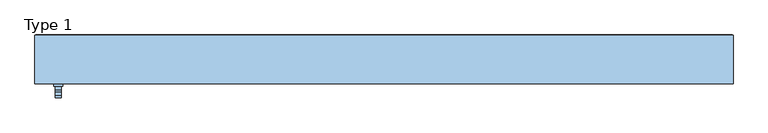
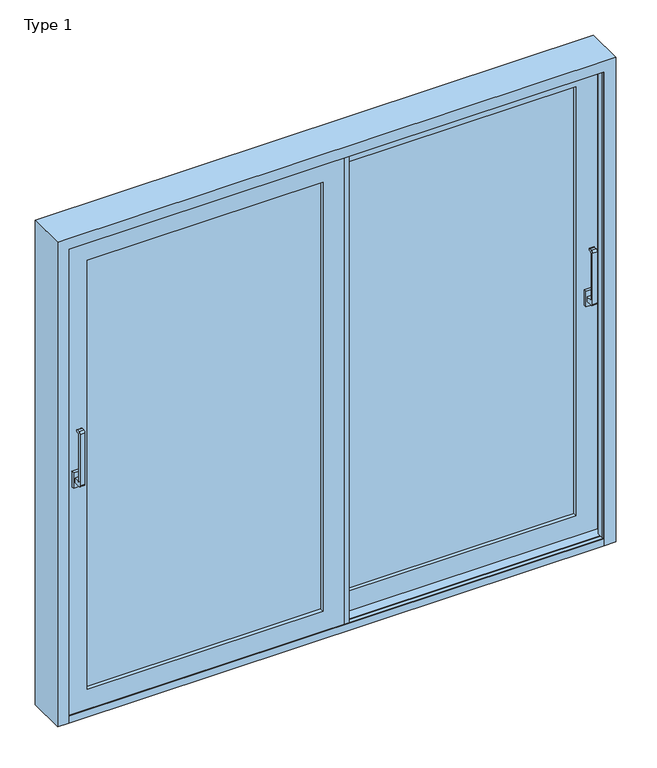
"""IFC4 building model written with IfcOpenShell, lengths in millimetres: window geometry, ETEM_E50_Double_Fly Screen_Lift_Sliding_FR : Type 1."""

from ifc_helpers import new_model, si_unit, point, frame, frame_2d, origin, place, context, project, spatial, polyline, circle_curve, ellipse_curve, trimmed, segment, composite_curve, outline, extrude, faceted_brep, source, transform, mapped, element, save
from ifc_brep_helpers import plane_surface, cylinder_surface, revolved_surface, advanced_brep


def type_1_54118faa(model_context):
    return source(origin(), model_context, "Body", "SolidModel", [
        extrude(outline(polyline([(1135.0, -5.6518056), (1105.0, -5.6518056), (1105.0, 7.3481944), (1135.0, 7.3481944), (1135.0, -5.6518056)])), frame((0.0, 0.0, 1065.0), z_axis=(0.0, 0.0, 1.0), x_axis=(1.0, 0.0, 0.0)), (0.0, 0.0, 1.0), 70.0),
        extrude(outline(composite_curve([segment(polyline([(-5.6518056, 1090.0), (-37.2254904, 1090.0)]), True, "CONTINUOUS"), segment(trimmed(circle_curve(frame_2d((-37.2254904, 1098.4263152)), 8.4263152), [point((-37.2254904, 1090.0))], [point((-45.6518056, 1098.4263152))], False, "CARTESIAN"), True, "CONTINUOUS"), segment(polyline([(-45.6518056, 1098.4263152), (-45.6518056, 1331.5736848)]), True, "CONTINUOUS"), segment(trimmed(circle_curve(frame_2d((-37.2254904, 1331.5736848)), 8.4263152), [point((-45.6518056, 1331.5736848))], [point((-37.2254904, 1340.0))], False, "CARTESIAN"), True, "CONTINUOUS"), segment(polyline([(-37.2254904, 1340.0), (-25.6518056, 1340.0)]), True, "CONTINUOUS"), segment(trimmed(circle_curve(frame_2d((-25.6518056, 1335.0)), 5.0), [point((-25.6518056, 1340.0))], [point((-25.6518056, 1330.0))], False, "CARTESIAN"), True, "CONTINUOUS"), segment(polyline([(-25.6518056, 1330.0), (-32.1162717, 1330.0)]), True, "CONTINUOUS"), segment(trimmed(circle_curve(frame_2d((-32.1162717, 1326.4644661)), 3.5355339), [point((-32.1162717, 1330.0))], [point((-35.6518056, 1326.4644661))], True, "CARTESIAN"), True, "CONTINUOUS"), segment(polyline([(-35.6518056, 1326.4644661), (-35.6518056, 1113.5355339)]), True, "CONTINUOUS"), segment(trimmed(circle_curve(frame_2d((-32.1162717, 1113.5355339)), 3.5355339), [point((-35.6518056, 1113.5355339))], [point((-32.1162717, 1110.0))], True, "CARTESIAN"), True, "CONTINUOUS"), segment(polyline([(-32.1162717, 1110.0), (-5.6518056, 1110.0), (-5.6518056, 1090.0)]), True, "CONTINUOUS")], self_intersect=False)), frame((1110.0, 0.0, 0.0), z_axis=(1.0, 0.0, 0.0), x_axis=(0.0, 1.0, 0.0)), (0.0, 0.0, 1.0), 20.0),
        extrude(outline(polyline([(-1104.999965, -70.5888542), (-1134.999965, -70.5888542), (-1134.999965, -57.5888542), (-1104.999965, -57.5888542), (-1104.999965, -70.5888542)])), frame((0.0, 0.0, 1065.0), z_axis=(0.0, 0.0, 1.0), x_axis=(1.0, 0.0, 0.0)), (0.0, 0.0, 1.0), 70.0),
        extrude(outline(composite_curve([segment(polyline([(-70.5888542, 1090.0), (-102.162539, 1090.0)]), True, "CONTINUOUS"), segment(trimmed(circle_curve(frame_2d((-102.162539, 1098.4263152)), 8.4263152), [point((-102.162539, 1090.0))], [point((-110.5888542, 1098.4263152))], False, "CARTESIAN"), True, "CONTINUOUS"), segment(polyline([(-110.5888542, 1098.4263152), (-110.5888542, 1331.5736848)]), True, "CONTINUOUS"), segment(trimmed(circle_curve(frame_2d((-102.162539, 1331.5736848)), 8.4263152), [point((-110.5888542, 1331.5736848))], [point((-102.162539, 1340.0))], False, "CARTESIAN"), True, "CONTINUOUS"), segment(polyline([(-102.162539, 1340.0), (-90.5888542, 1340.0)]), True, "CONTINUOUS"), segment(trimmed(circle_curve(frame_2d((-90.5888542, 1335.0)), 5.0), [point((-90.5888542, 1340.0))], [point((-90.5888542, 1330.0))], False, "CARTESIAN"), True, "CONTINUOUS"), segment(polyline([(-90.5888542, 1330.0), (-97.0533203, 1330.0)]), True, "CONTINUOUS"), segment(trimmed(circle_curve(frame_2d((-97.0533203, 1326.4644661)), 3.5355339), [point((-97.0533203, 1330.0))], [point((-100.5888542, 1326.4644661))], True, "CARTESIAN"), True, "CONTINUOUS"), segment(polyline([(-100.5888542, 1326.4644661), (-100.5888542, 1113.5355339)]), True, "CONTINUOUS"), segment(trimmed(circle_curve(frame_2d((-97.0533203, 1113.5355339)), 3.5355339), [point((-100.5888542, 1113.5355339))], [point((-97.0533203, 1110.0))], True, "CARTESIAN"), True, "CONTINUOUS"), segment(polyline([(-97.0533203, 1110.0), (-70.5888542, 1110.0), (-70.5888542, 1090.0)]), True, "CONTINUOUS")], self_intersect=False)), frame((-1129.999965, 0.0, 0.0), z_axis=(1.0, 0.0, 0.0), x_axis=(0.0, 1.0, 0.0)), (0.0, 0.0, 1.0), 20.0),
        faceted_brep([(-56.0, -57.5888542, 2069.0), (-56.0, -7.5888542, 2069.0), (-56.0, -7.5888542, 121.470192), (-56.0, -57.5888542, 121.470192), (35.5, -7.5888542, 29.970192), (-1160.499965, -7.5888542, 29.970192), (-1160.499965, -7.5888542, 2160.5), (35.5, -7.5888542, 2160.5), (-1068.999965, -7.5888542, 2069.0), (-1068.999965, -7.5888542, 121.470192), (-1068.999965, -57.5888542, 121.470192), (35.5, -57.5888542, 2160.5), (-1160.499965, -57.5888542, 2160.5), (-1160.499965, -57.5888542, 29.970192), (35.5, -57.5888542, 29.970192), (-1068.999965, -57.5888542, 2069.0), (35.5, -52.8888542, 2160.5), (35.5, -52.8888542, 29.970192), (-1160.499965, -52.8888542, 29.970192), (-1160.499965, -52.8888542, 2160.5), (6.3, -52.8888542, 2131.3), (-1131.299965, -52.8888542, 2131.3), (-1131.299965, -52.8888542, 59.170192), (6.3, -52.8888542, 59.170192), (6.3, -12.2888542, 2131.3), (6.3, -12.2888542, 59.170192), (-1131.299965, -12.2888542, 59.170192), (35.5, -12.2888542, 2160.5), (-1160.499965, -12.2888542, 2160.5), (-1160.499965, -12.2888542, 29.970192), (35.5, -12.2888542, 29.970192), (-1131.299965, -12.2888542, 2131.3)], [[[0, 1, 2, 3]], [[4, 5, 6, 7], [1, 8, 9, 2]], [[3, 2, 9, 10]], [[11, 12, 13, 14], [3, 10, 15, 0]], [[16, 11, 14, 17]], [[17, 14, 13, 18]], [[17, 18, 19, 16], [20, 21, 22, 23]], [[24, 20, 23, 25]], [[25, 23, 22, 26]], [[27, 28, 29, 30], [25, 26, 31, 24]], [[7, 27, 30, 4]], [[4, 30, 29, 5]], [[10, 9, 8, 15]], [[18, 13, 12, 19]], [[26, 22, 21, 31]], [[5, 29, 28, 6]], [[15, 8, 1, 0]], [[19, 12, 11, 16]], [[31, 21, 20, 24]], [[6, 28, 27, 7]]]),
        faceted_brep([(56.0, 57.3481944, 2069.0), (56.0, 7.3481944, 2069.0), (56.0, 7.3481944, 121.470192), (56.0, 57.3481944, 121.470192), (1068.999965, 7.3481944, 121.470192), (1068.999965, 57.3481944, 121.470192), (1160.499965, 7.3481944, 29.970192), (1160.499965, 7.3481944, 2160.5), (-35.5, 7.3481944, 2160.5), (-35.5, 7.3481944, 29.970192), (1068.999965, 7.3481944, 2069.0), (1068.999965, 57.3481944, 2069.0), (-35.5, 57.3481944, 29.970192), (-35.5, 57.3481944, 2160.5), (1160.499965, 57.3481944, 2160.5), (1160.499965, 57.3481944, 29.970192), (-35.5, 52.6481944, 2160.5), (-35.5, 52.6481944, 29.970192), (1160.499965, 52.6481944, 29.970192), (1160.499965, 52.6481944, 2160.5), (-6.3, 52.6481944, 59.170192), (-6.3, 52.6481944, 2131.3), (1131.299965, 52.6481944, 2131.3), (1131.299965, 52.6481944, 59.170192), (-6.3, 12.0481944, 2131.3), (-6.3, 12.0481944, 59.170192), (1131.299965, 12.0481944, 59.170192), (1131.299965, 12.0481944, 2131.3), (-35.5, 12.0481944, 29.970192), (-35.5, 12.0481944, 2160.5), (1160.499965, 12.0481944, 2160.5), (1160.499965, 12.0481944, 29.970192)], [[[0, 1, 2, 3]], [[3, 2, 4, 5]], [[6, 7, 8, 9], [2, 1, 10, 4]], [[5, 4, 10, 11]], [[12, 13, 14, 15], [5, 11, 0, 3]], [[16, 13, 12, 17]], [[17, 12, 15, 18]], [[18, 15, 14, 19]], [[18, 19, 16, 17], [20, 21, 22, 23]], [[24, 21, 20, 25]], [[25, 20, 23, 26]], [[26, 23, 22, 27]], [[28, 29, 30, 31], [26, 27, 24, 25]], [[8, 29, 28, 9]], [[9, 28, 31, 6]], [[6, 31, 30, 7]], [[11, 10, 1, 0]], [[19, 14, 13, 16]], [[27, 22, 21, 24]], [[7, 30, 29, 8]]]),
        extrude(outline(polyline([(56.0, -57.6518056), (35.5, -57.6518056), (35.5, 3.3481944), (56.0, 3.3481944), (56.0, -57.6518056)])), frame((0.0, 0.0, 29.970192), z_axis=(0.0, 0.0, 1.0), x_axis=(1.0, 0.0, 0.0)), (0.0, 0.0, 1.0), 2130.529808),
        extrude(outline(polyline([(-56.0, -3.6518056), (-56.0, 57.3481944), (-35.5, 57.3481944), (-35.5, -3.6518056), (-56.0, -3.6518056)])), frame((0.0, 0.0, 29.970192), z_axis=(0.0, 0.0, 1.0), x_axis=(1.0, 0.0, 0.0)), (0.0, 0.0, 1.0), 2130.529808),
        extrude(outline(polyline([(-56.0, -41.6518056), (-1068.999965, -41.6518056), (-1068.999965, -36.6518056), (-56.0, -36.6518056), (-56.0, -41.6518056)])), frame((0.0, 0.0, 121.470192), z_axis=(0.0, 0.0, 1.0), x_axis=(1.0, 0.0, 0.0)), (0.0, 0.0, 1.0), 1947.529808),
        extrude(outline(polyline([(56.0, 49.3480733), (1068.999965, 49.3480733), (1068.999965, 44.3480733), (56.0, 44.3480733), (56.0, 49.3480733)])), frame((0.0, 0.0, 121.470192), z_axis=(0.0, 0.0, 1.0), x_axis=(1.0, 0.0, 0.0)), (0.0, 0.0, 1.0), 1947.529808),
        extrude(outline(polyline([(56.0, 28.3481944), (1068.999965, 28.3481944), (1068.999965, 23.3481944), (56.0, 23.3481944), (56.0, 28.3481944)])), frame((0.0, 0.0, 121.470192), z_axis=(0.0, 0.0, 1.0), x_axis=(1.0, 0.0, 0.0)), (0.0, 0.0, 1.0), 1947.529808),
        extrude(outline(polyline([(-56.0, -20.6519267), (-1068.999965, -20.6519267), (-1068.999965, -15.6519267), (-56.0, -15.6519267), (-56.0, -20.6519267)])), frame((0.0, 0.0, 121.470192), z_axis=(0.0, 0.0, 1.0), x_axis=(1.0, 0.0, 0.0)), (0.0, 0.0, 1.0), 1947.529808),
        extrude(outline(polyline([(-52.0, 71.3620462), (-1099.499965, 71.3620462), (-1099.499965, 72.3620462), (-52.0, 72.3620462), (-52.0, 71.3620462)])), frame((0.0, 0.0, 90.970192), z_axis=(0.0, 0.0, 1.0), x_axis=(1.0, 0.0, 0.0)), (0.0, 0.0, 1.0), 2008.529808),
        advanced_brep(
        [(-0.5050126, 67.3481944, 2150.9949874), (-1150.9949524, 67.3481944, 2150.9949874), (-1150.9949524, 67.3481944, 39.4752045), (-0.5050126, 67.3481944, 39.4752045), (-26.7, 67.3481944, 65.670192), (-1124.799965, 67.3481944, 65.670192), (-1124.799965, 67.3481944, 2124.8), (-26.7, 67.3481944, 2124.8), (9.0, 74.5481944, 2160.5), (9.0, 65.5481944, 2160.5), (9.0, 65.5481944, 29.970192), (9.0, 74.5481944, 29.970192), (-1160.499965, 65.5481944, 29.970192), (-1160.499965, 74.5481944, 29.970192), (-1160.499965, 74.5481944, 2160.5), (-3.2, 74.5481944, 2148.3), (-1148.299965, 74.5481944, 2148.3), (-1148.299965, 74.5481944, 42.170192), (-3.2, 74.5481944, 42.170192), (-3.2, 92.1481944, 2148.3), (-3.2, 92.1481944, 42.170192), (-1148.299965, 92.1481944, 42.170192), (9.0, 92.1481944, 2160.5), (-1160.499965, 92.1481944, 2160.5), (-1160.499965, 92.1481944, 29.970192), (9.0, 92.1481944, 29.970192), (-1148.299965, 92.1481944, 2148.3), (9.0, 99.3481944, 2160.5), (9.0, 99.3481944, 29.970192), (-1160.499965, 99.3481944, 29.970192), (-1160.499965, 99.3481944, 2160.5), (-26.7, 99.3481944, 2124.8), (-1124.799965, 99.3481944, 2124.8), (-1124.799965, 99.3481944, 65.670192), (-26.7, 99.3481944, 65.670192), (-56.0, 72.3620462, 2095.5), (-56.0, 99.3481944, 2095.5), (-56.0, 99.3481944, 94.970192), (-56.0, 72.3620462, 94.970192), (-1095.499965, 99.3481944, 94.970192), (-1095.499965, 72.3620462, 94.970192), (-48.6, 78.8481944, 2102.9), (-1102.899965, 78.8481944, 2102.9), (-1102.899965, 78.8481944, 87.570192), (-48.6, 78.8481944, 87.570192), (-54.8, 78.8481944, 93.770192), (-1096.699965, 78.8481944, 93.770192), (-1096.699965, 78.8481944, 2096.7), (-54.8, 78.8481944, 2096.7), (-1160.499965, 65.5481944, 2160.5), (-1095.499965, 99.3481944, 2095.5), (-1095.499965, 72.3620462, 2095.5), (-26.7, 76.3481944, 65.670192), (-1124.799965, 76.3481944, 65.670192), (-1124.799965, 76.3481944, 2124.8), (-26.7, 76.3481944, 2124.8), (-1124.799965, 90.1481944, 65.670192), (-1124.799965, 90.1481944, 2124.8), (-26.7, 90.1481944, 65.670192), (-26.7, 90.1481944, 2124.8), (-47.2, 76.3481944, 2104.3), (-47.2, 70.2436394, 2104.3), (-47.2, 70.2436394, 86.170192), (-47.2, 76.3481944, 86.170192), (-46.6545455, 69.7457098, 2104.8454545), (-46.6545455, 69.7457098, 85.6247374), (-1104.299965, 70.2436394, 86.170192), (-1104.299965, 76.3481944, 86.170192), (-1104.299965, 76.3481944, 2104.3), (-43.5, 90.1481944, 2108.0), (-1107.999965, 90.1481944, 2108.0), (-1107.999965, 90.1481944, 82.470192), (-43.5, 90.1481944, 82.470192), (-1104.8454195, 69.7457098, 85.6247374), (-1104.299965, 70.2436394, 2104.3), (-1104.8454195, 69.7457098, 2104.8454545), (-1102.899965, 68.5481944, 87.570192), (-1102.899965, 68.5481944, 2102.9), (-48.6, 68.5481944, 87.570192), (-48.6, 68.5481944, 2102.9), (-46.6, 68.5481944, 2104.9), (-1104.899965, 68.5481944, 2104.9), (-1104.899965, 68.5481944, 85.570192), (-46.6, 68.5481944, 85.570192), (-0.5050126, 65.5481944, 39.4752045), (-1150.9949524, 65.5481944, 39.4752045), (-1150.9949524, 65.5481944, 2150.9949874), (-0.5050126, 65.5481944, 2150.9949874), (-43.5, 99.3481944, 82.470192), (-1107.999965, 99.3481944, 82.470192), (-1107.999965, 99.3481944, 2108.0), (-43.5, 99.3481944, 2108.0), (-54.2, 72.3620462, 2097.3), (-1097.299965, 72.3620462, 2097.3), (-1097.299965, 72.3620462, 93.170192), (-54.2, 72.3620462, 93.170192), (-54.8, 74.0574913, 93.770192), (-1096.699965, 74.0574913, 93.770192), (-1096.699965, 74.0574913, 2096.7), (-54.8, 74.0574913, 2096.7), (-54.2545455, 73.5595618, 2097.2454545), (-54.2545455, 73.5595618, 93.2247374), (-1097.2454195, 73.5595618, 93.2247374), (-1097.2454195, 73.5595618, 2097.2454545)],
        [
            (0, 1),
            (1, 2),
            (2, 3),
            (3, 0),
            (4, 5),
            (5, 6),
            (6, 7),
            (7, 4),
            (8, 9),
            (9, 10),
            (10, 11),
            (11, 8),
            (10, 12),
            (12, 13),
            (13, 11),
            (13, 14),
            (14, 8),
            (15, 16),
            (16, 17),
            (17, 18),
            (18, 15),
            (19, 15),
            (18, 20),
            (20, 19),
            (17, 21),
            (21, 20),
            (22, 23),
            (23, 24),
            (24, 25),
            (25, 22),
            (21, 26),
            (26, 19),
            (27, 22),
            (25, 28),
            (28, 27),
            (24, 29),
            (29, 28),
            (29, 30),
            (30, 27),
            (31, 32),
            (32, 33),
            (33, 34),
            (34, 31),
            (35, 36),
            (36, 37),
            (37, 38),
            (38, 35),
            (37, 39),
            (39, 40),
            (40, 38),
            (41, 42),
            (42, 43),
            (43, 44),
            (44, 41),
            (45, 46),
            (46, 47),
            (47, 48),
            (48, 45),
            (12, 49),
            (49, 14),
            (16, 26),
            (23, 30),
            (39, 50),
            (50, 51),
            (51, 40),
            (4, 52),
            (52, 53),
            (53, 5),
            (53, 54),
            (54, 6),
            (7, 55),
            (55, 52),
            (56, 33),
            (32, 57),
            (57, 56),
            (58, 34),
            (56, 58),
            (59, 31),
            (58, 59),
            (60, 61),
            (61, 62),
            (62, 63),
            (63, 60),
            (61, 64, ellipse_curve(frame((-46.7, 70.2436394, 2104.8), z_axis=(-0.7071067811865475, 0.0, 0.7071067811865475), x_axis=(-0.7071067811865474, 0.0, -0.7071067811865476)), 0.7071068, 0.5)),
            (64, 65),
            (65, 62, ellipse_curve(frame((-46.7, 70.2436394, 85.670192), z_axis=(-0.7071067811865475, 0.0, -0.7071067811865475), x_axis=(0.7071067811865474, 0.0, -0.7071067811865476)), 0.7071068, 0.5)),
            (62, 66),
            (66, 67),
            (67, 63),
            (55, 54),
            (67, 68),
            (68, 60),
            (57, 59),
            (69, 70),
            (70, 71),
            (71, 72),
            (72, 69),
            (65, 73),
            (73, 66, ellipse_curve(frame((-1104.799965, 70.2436394, 85.670192), z_axis=(-0.7071067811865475, 0.0, 0.7071067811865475), x_axis=(-0.7071067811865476, 0.0, -0.7071067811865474)), 0.7071068, 0.5)),
            (66, 74),
            (74, 68),
            (73, 75),
            (75, 74, ellipse_curve(frame((-1104.799965, 70.2436394, 2104.8), z_axis=(0.7071067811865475, 0.0, 0.7071067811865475), x_axis=(-0.7071067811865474, 0.0, 0.7071067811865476)), 0.7071068, 0.5)),
            (76, 43),
            (42, 77),
            (77, 76),
            (78, 44),
            (76, 78),
            (79, 41),
            (78, 79),
            (80, 81),
            (81, 82),
            (82, 83),
            (83, 80),
            (77, 79),
            (73, 82, ellipse_curve(frame((-1104.899965, 69.1481944, 85.570192), z_axis=(-0.7071067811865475, 0.0, 0.7071067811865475), x_axis=(-0.7071067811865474, 0.0, -0.7071067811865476)), 0.8485281, 0.6)),
            (81, 75, ellipse_curve(frame((-1104.899965, 69.1481944, 2104.9), z_axis=(-0.7071067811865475, 0.0, -0.7071067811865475), x_axis=(0.7071067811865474, 0.0, -0.7071067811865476)), 0.8485281, 0.6)),
            (65, 83, ellipse_curve(frame((-46.6, 69.1481944, 85.570192), z_axis=(-0.7071067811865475, 0.0, -0.7071067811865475), x_axis=(0.7071067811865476, 0.0, -0.7071067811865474)), 0.8485281, 0.6)),
            (64, 80, ellipse_curve(frame((-46.6, 69.1481944, 2104.9), z_axis=(0.7071067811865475, 0.0, -0.7071067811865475), x_axis=(0.7071067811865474, 0.0, 0.7071067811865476)), 0.8485281, 0.6)),
            (49, 9),
            (50, 36),
            (35, 51),
            (74, 61),
            (64, 75),
            (84, 85),
            (85, 86),
            (86, 87),
            (87, 84),
            (88, 89),
            (89, 90),
            (90, 91),
            (91, 88),
            (92, 93),
            (93, 94),
            (94, 95),
            (95, 92),
            (45, 96),
            (96, 97),
            (97, 46),
            (97, 98),
            (98, 47),
            (48, 99),
            (99, 96),
            (89, 71),
            (70, 90),
            (88, 72),
            (91, 69),
            (100, 92, ellipse_curve(frame((-54.2, 72.9620462, 2097.3), z_axis=(0.7071067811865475, 0.0, -0.7071067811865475), x_axis=(0.7071067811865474, 0.0, 0.7071067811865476)), 0.8485281, 0.6)),
            (95, 101, ellipse_curve(frame((-54.2, 72.9620462, 93.170192), z_axis=(0.7071067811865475, 0.0, 0.7071067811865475), x_axis=(-0.7071067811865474, 0.0, 0.7071067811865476)), 0.8485281, 0.6)),
            (101, 100),
            (94, 102, ellipse_curve(frame((-1097.299965, 72.9620462, 93.170192), z_axis=(0.7071067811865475, 0.0, -0.7071067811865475), x_axis=(0.7071067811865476, 0.0, 0.7071067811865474)), 0.8485281, 0.6)),
            (102, 101),
            (99, 100, ellipse_curve(frame((-54.3, 74.0574913, 2097.2), z_axis=(-0.7071067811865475, 0.0, 0.7071067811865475), x_axis=(-0.7071067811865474, 0.0, -0.7071067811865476)), 0.7071068, 0.5)),
            (101, 96, ellipse_curve(frame((-54.3, 74.0574913, 93.270192), z_axis=(-0.7071067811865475, 0.0, -0.7071067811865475), x_axis=(0.7071067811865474, 0.0, -0.7071067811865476)), 0.7071068, 0.5)),
            (102, 97, ellipse_curve(frame((-1097.199965, 74.0574913, 93.270192), z_axis=(-0.7071067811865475, 0.0, 0.7071067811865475), x_axis=(-0.7071067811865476, 0.0, -0.7071067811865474)), 0.7071068, 0.5)),
            (93, 103, ellipse_curve(frame((-1097.299965, 72.9620462, 2097.3), z_axis=(-0.7071067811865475, 0.0, -0.7071067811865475), x_axis=(0.7071067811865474, 0.0, -0.7071067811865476)), 0.8485281, 0.6)),
            (103, 102),
            (103, 98, ellipse_curve(frame((-1097.199965, 74.0574913, 2097.2), z_axis=(0.7071067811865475, 0.0, 0.7071067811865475), x_axis=(-0.7071067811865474, 0.0, 0.7071067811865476)), 0.7071068, 0.5)),
            (100, 103),
            (99, 98),
            (85, 2),
            (1, 86),
            (84, 3),
            (87, 0),
        ],
        [
            plane_surface(frame((-1124.799965, 67.3481944, 2124.8), z_axis=(0.0, -1.0, 0.0), x_axis=(1.0, 0.0, 0.0))),
            plane_surface(frame((9.0, 65.5481944, 2160.5), z_axis=(1.0, 0.0, 0.0), x_axis=(0.0, 0.0, -1.0))),
            plane_surface(frame((9.0, 65.5481944, 29.970192), z_axis=(0.0, 0.0, -1.0), x_axis=(-1.0, 0.0, 0.0))),
            plane_surface(frame((-1160.499965, 74.5481944, 2160.5), z_axis=(0.0, 1.0, 0.0), x_axis=(1.0, 0.0, 0.0))),
            plane_surface(frame((-3.2, 74.5481944, 2148.3), z_axis=(1.0, 0.0, 0.0), x_axis=(0.0, 0.0, -1.0))),
            plane_surface(frame((-3.2, 74.5481944, 42.170192), z_axis=(0.0, 0.0, -1.0), x_axis=(-1.0, 0.0, 0.0))),
            plane_surface(frame((-1148.299965, 92.1481944, 2148.3), z_axis=(0.0, -1.0, 0.0), x_axis=(1.0, 0.0, 0.0))),
            plane_surface(frame((9.0, 92.1481944, 2160.5), z_axis=(1.0, 0.0, 0.0), x_axis=(0.0, 0.0, -1.0))),
            plane_surface(frame((9.0, 92.1481944, 29.970192), z_axis=(0.0, 0.0, -1.0), x_axis=(-1.0, 0.0, 0.0))),
            plane_surface(frame((-1160.499965, 99.3481944, 2160.5), z_axis=(0.0, 1.0, 0.0), x_axis=(1.0, 0.0, 0.0))),
            plane_surface(frame((-56.0, 99.3481944, 2095.5), z_axis=(-1.0, 0.0, 0.0), x_axis=(0.0, 0.0, -1.0))),
            plane_surface(frame((-56.0, 99.3481944, 94.970192), z_axis=(0.0, 0.0, 1.0), x_axis=(-1.0, 0.0, 0.0))),
            plane_surface(frame((-1096.699965, 78.8481944, 2096.7), z_axis=(0.0, -1.0, 0.0), x_axis=(1.0, 0.0, 0.0))),
            plane_surface(frame((-1160.499965, 65.5481944, 29.970192), z_axis=(-1.0, 0.0, 0.0), x_axis=(0.0, 0.0, 1.0))),
            plane_surface(frame((-1148.299965, 74.5481944, 42.170192), z_axis=(-1.0, 0.0, 0.0), x_axis=(0.0, 0.0, 1.0))),
            plane_surface(frame((-1160.499965, 92.1481944, 29.970192), z_axis=(-1.0, 0.0, 0.0), x_axis=(0.0, 0.0, 1.0))),
            plane_surface(frame((-1095.499965, 99.3481944, 94.970192), z_axis=(1.0, 0.0, 0.0), x_axis=(0.0, 0.0, 1.0))),
            plane_surface(frame((-26.7, 76.3481944, 65.670192), z_axis=(0.0, 0.0, 1.0), x_axis=(-1.0, 0.0, 0.0))),
            plane_surface(frame((-1124.799965, 76.3481944, 65.670192), z_axis=(1.0, 0.0, 0.0), x_axis=(0.0, 0.0, 1.0))),
            plane_surface(frame((-26.7, 76.3481944, 2124.8), z_axis=(-1.0, 0.0, 0.0), x_axis=(0.0, 0.0, -1.0))),
            plane_surface(frame((-1124.799965, 99.3481944, 65.670192), z_axis=(1.0, 0.0, 0.0), x_axis=(0.0, 0.0, 1.0))),
            plane_surface(frame((-26.7, 99.3481944, 65.670192), z_axis=(0.0, 0.0, 1.0), x_axis=(-1.0, 0.0, 0.0))),
            plane_surface(frame((-26.7, 99.3481944, 2124.8), z_axis=(-1.0, 0.0, 0.0), x_axis=(0.0, 0.0, -1.0))),
            plane_surface(frame((-47.2, 70.2436394, 2104.3), z_axis=(1.0, 0.0, 0.0), x_axis=(0.0, 0.0, -1.0))),
            revolved_surface(polyline([(-46.2, 70.2436394, 85.17019198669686), (-46.2, 70.2436394, 2105.3000000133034)]), (-46.7, 70.2436394, 2160.5), (0.0, 0.0, -1.0)),
            plane_surface(frame((-47.2, 70.2436394, 86.170192), z_axis=(0.0, 0.0, -1.0), x_axis=(-1.0, 0.0, 0.0))),
            plane_surface(frame((-1104.299965, 76.3481944, 2104.3), z_axis=(0.0, -1.0, 0.0), x_axis=(1.0, 0.0, 0.0))),
            plane_surface(frame((-1124.799965, 90.1481944, 2124.8), z_axis=(0.0, 1.0, 0.0), x_axis=(1.0, 0.0, 0.0))),
            revolved_surface(polyline([(-1105.299965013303, 70.2436394, 85.170192), (-46.19999998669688, 70.2436394, 85.170192)]), (9.0, 70.2436394, 85.670192), (-1.0, 0.0, 0.0)),
            plane_surface(frame((-1104.299965, 70.2436394, 86.170192), z_axis=(-1.0, 0.0, 0.0), x_axis=(0.0, 0.0, 1.0))),
            revolved_surface(polyline([(-1105.299965, 70.2436394, 2105.3000000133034), (-1105.299965, 70.2436394, 85.17019198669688)]), (-1104.799965, 70.2436394, 29.970192), (0.0, 0.0, 1.0)),
            plane_surface(frame((-1102.899965, 78.8481944, 87.570192), z_axis=(1.0, 0.0, 0.0), x_axis=(0.0, 0.0, 1.0))),
            plane_surface(frame((-48.6, 78.8481944, 87.570192), z_axis=(0.0, 0.0, 1.0), x_axis=(-1.0, 0.0, 0.0))),
            plane_surface(frame((-48.6, 78.8481944, 2102.9), z_axis=(-1.0, 0.0, 0.0), x_axis=(0.0, 0.0, -1.0))),
            plane_surface(frame((-1102.899965, 68.5481944, 2102.9), z_axis=(0.0, -1.0, 0.0), x_axis=(1.0, 0.0, 0.0))),
            cylinder_surface(frame((-1104.899965, 69.1481944, 29.970192), z_axis=(0.0, 0.0, -1.0), x_axis=(-1.0, 0.0, 0.0)), 0.6),
            cylinder_surface(frame((9.0, 69.1481944, 85.570192), z_axis=(1.0, 0.0, 0.0), x_axis=(0.0, 0.0, -1.0)), 0.6),
            cylinder_surface(frame((-46.6, 69.1481944, 2160.5), z_axis=(0.0, 0.0, 1.0), x_axis=(1.0, 0.0, 0.0)), 0.6),
            plane_surface(frame((-1160.499965, 65.5481944, 2160.5), z_axis=(0.0, 0.0, 1.0), x_axis=(1.0, 0.0, 0.0))),
            plane_surface(frame((-1148.299965, 74.5481944, 2148.3), z_axis=(0.0, 0.0, 1.0), x_axis=(1.0, 0.0, 0.0))),
            plane_surface(frame((-1160.499965, 92.1481944, 2160.5), z_axis=(0.0, 0.0, 1.0), x_axis=(1.0, 0.0, 0.0))),
            plane_surface(frame((-1095.499965, 99.3481944, 2095.5), z_axis=(0.0, 0.0, -1.0), x_axis=(1.0, 0.0, 0.0))),
            plane_surface(frame((-1104.299965, 70.2436394, 2104.3), z_axis=(0.0, 0.0, 1.0), x_axis=(1.0, 0.0, 0.0))),
            plane_surface(frame((-1124.799965, 76.3481944, 2124.8), z_axis=(0.0, 0.0, -1.0), x_axis=(1.0, 0.0, 0.0))),
            plane_surface(frame((-1124.799965, 99.3481944, 2124.8), z_axis=(0.0, 0.0, -1.0), x_axis=(1.0, 0.0, 0.0))),
            plane_surface(frame((-1102.899965, 78.8481944, 2102.9), z_axis=(0.0, 0.0, -1.0), x_axis=(1.0, 0.0, 0.0))),
            cylinder_surface(frame((-1160.499965, 69.1481944, 2104.9), z_axis=(-1.0, 0.0, 0.0), x_axis=(0.0, 0.0, 1.0)), 0.6),
            revolved_surface(polyline([(-46.19999998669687, 70.2436394, 2105.3), (-1105.299965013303, 70.2436394, 2105.3)]), (-1160.499965, 70.2436394, 2104.8), (1.0, 0.0, 0.0)),
            plane_surface(frame((-1150.9949524, 65.5481944, 2150.9949874), z_axis=(0.0, -1.0, 0.0), x_axis=(1.0, 0.0, 0.0))),
            plane_surface(frame((-1107.999965, 99.3481944, 2108.0), z_axis=(0.0, 1.0, 0.0), x_axis=(1.0, 0.0, 0.0))),
            plane_surface(frame((-1095.499965, 72.3620462, 2095.5), z_axis=(0.0, -1.0, 0.0), x_axis=(1.0, 0.0, 0.0))),
            plane_surface(frame((-54.8, 74.0574913, 93.770192), z_axis=(0.0, 0.0, -1.0), x_axis=(-1.0, 0.0, 0.0))),
            plane_surface(frame((-1096.699965, 74.0574913, 93.770192), z_axis=(-1.0, 0.0, 0.0), x_axis=(0.0, 0.0, 1.0))),
            plane_surface(frame((-54.8, 74.0574913, 2096.7), z_axis=(1.0, 0.0, 0.0), x_axis=(0.0, 0.0, -1.0))),
            plane_surface(frame((-1107.999965, 90.1481944, 82.470192), z_axis=(-1.0, 0.0, 0.0), x_axis=(0.0, 0.0, 1.0))),
            plane_surface(frame((-43.5, 90.1481944, 82.470192), z_axis=(0.0, 0.0, -1.0), x_axis=(-1.0, 0.0, 0.0))),
            plane_surface(frame((-43.5, 90.1481944, 2108.0), z_axis=(1.0, 0.0, 0.0), x_axis=(0.0, 0.0, -1.0))),
            cylinder_surface(frame((-54.2, 72.9620462, 2160.5), z_axis=(0.0, 0.0, 1.0), x_axis=(1.0, 0.0, 0.0)), 0.6),
            cylinder_surface(frame((9.0, 72.9620462, 93.170192), z_axis=(1.0, 0.0, 0.0), x_axis=(0.0, 0.0, -1.0)), 0.6),
            revolved_surface(polyline([(-53.8, 74.0574913, 92.77019198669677), (-53.8, 74.0574913, 2097.700000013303)]), (-54.3, 74.0574913, 2160.5), (0.0, 0.0, -1.0)),
            revolved_surface(polyline([(-1097.6999650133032, 74.0574913, 92.770192), (-53.799999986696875, 74.0574913, 92.770192)]), (9.0, 74.0574913, 93.270192), (-1.0, 0.0, 0.0)),
            cylinder_surface(frame((-1097.299965, 72.9620462, 29.970192), z_axis=(0.0, 0.0, -1.0), x_axis=(-1.0, 0.0, 0.0)), 0.6),
            revolved_surface(polyline([(-1097.699965, 74.0574913, 2097.700000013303), (-1097.699965, 74.0574913, 92.77019198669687)]), (-1097.199965, 74.0574913, 29.970192), (0.0, 0.0, 1.0)),
            cylinder_surface(frame((-1160.499965, 72.9620462, 2097.3), z_axis=(-1.0, 0.0, 0.0), x_axis=(0.0, 0.0, 1.0)), 0.6),
            revolved_surface(polyline([(-53.799999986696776, 74.0574913, 2097.7), (-1097.6999650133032, 74.0574913, 2097.7)]), (-1160.499965, 74.0574913, 2097.2), (1.0, 0.0, 0.0)),
            plane_surface(frame((-1096.699965, 74.0574913, 2096.7), z_axis=(0.0, 0.0, 1.0), x_axis=(1.0, 0.0, 0.0))),
            plane_surface(frame((-1107.999965, 90.1481944, 2108.0), z_axis=(0.0, 0.0, 1.0), x_axis=(1.0, 0.0, 0.0))),
            plane_surface(frame((-1150.9949524, 67.3481944, 39.4752045), z_axis=(1.0, 0.0, 0.0), x_axis=(0.0, 0.0, 1.0))),
            plane_surface(frame((-0.5050126, 67.3481944, 39.4752045), z_axis=(0.0, 0.0, 1.0), x_axis=(-1.0, 0.0, 0.0))),
            plane_surface(frame((-0.5050126, 67.3481944, 2150.9949874), z_axis=(-1.0, 0.0, 0.0), x_axis=(0.0, 0.0, -1.0))),
            plane_surface(frame((-1150.9949524, 67.3481944, 2150.9949874), z_axis=(0.0, 0.0, -1.0), x_axis=(1.0, 0.0, 0.0))),
        ],
        [
            (0, [[1, 2, 3, 4], [5, 6, 7, 8]]),
            (1, [[9, 10, 11, 12]]),
            (2, [[-11, 13, 14, 15]]),
            (3, [[-15, 16, 17, -12], [18, 19, 20, 21]]),
            (4, [[22, -21, 23, 24]]),
            (5, [[-23, -20, 25, 26]]),
            (6, [[27, 28, 29, 30], [-26, 31, 32, -24]]),
            (7, [[33, -30, 34, 35]]),
            (8, [[-34, -29, 36, 37]]),
            (9, [[-37, 38, 39, -35], [40, 41, 42, 43]]),
            (10, [[44, 45, 46, 47]]),
            (11, [[-46, 48, 49, 50]]),
            (12, [[51, 52, 53, 54], [55, 56, 57, 58]]),
            (13, [[-14, 59, 60, -16]]),
            (14, [[-25, -19, 61, -31]]),
            (15, [[-36, -28, 62, -38]]),
            (16, [[-49, 63, 64, 65]]),
            (17, [[66, 67, 68, -5]]),
            (18, [[-68, 69, 70, -6]]),
            (19, [[71, 72, -66, -8]]),
            (20, [[73, -41, 74, 75]]),
            (21, [[76, -42, -73, 77]]),
            (22, [[78, -43, -76, 79]]),
            (23, [[80, 81, 82, 83]]),
            (24, [[84, 85, 86, -81]]),
            (25, [[-82, 87, 88, 89]]),
            (26, [[90, -69, -67, -72], [-89, 91, 92, -83]]),
            (27, [[-77, -75, 93, -79], [94, 95, 96, 97]]),
            (28, [[-86, 98, 99, -87]]),
            (29, [[-88, 100, 101, -91]]),
            (30, [[-99, 102, 103, -100]]),
            (31, [[104, -52, 105, 106]]),
            (32, [[107, -53, -104, 108]]),
            (33, [[109, -54, -107, 110]]),
            (34, [[111, 112, 113, 114], [-108, -106, 115, -110]]),
            (35, [[116, -112, 117, -102]]),
            (36, [[118, -113, -116, -98]]),
            (37, [[119, -114, -118, -85]]),
            (38, [[-60, 120, -9, -17]]),
            (39, [[-61, -18, -22, -32]]),
            (40, [[-62, -27, -33, -39]]),
            (41, [[-64, 121, -44, 122]]),
            (42, [[-101, 123, -80, -92]]),
            (43, [[-70, -90, -71, -7]]),
            (44, [[-74, -40, -78, -93]]),
            (45, [[-105, -51, -109, -115]]),
            (46, [[-117, -111, -119, 124]]),
            (47, [[-103, -124, -84, -123]]),
            (48, [[-120, -59, -13, -10], [125, 126, 127, 128]]),
            (49, [[129, 130, 131, 132], [-121, -63, -48, -45]]),
            (50, [[133, 134, 135, 136], [-50, -65, -122, -47]]),
            (51, [[137, 138, 139, -55]]),
            (52, [[-139, 140, 141, -56]]),
            (53, [[142, 143, -137, -58]]),
            (54, [[144, -95, 145, -130]]),
            (55, [[146, -96, -144, -129]]),
            (56, [[147, -97, -146, -132]]),
            (57, [[148, -136, 149, 150]]),
            (58, [[-149, -135, 151, 152]]),
            (59, [[153, -150, 154, -143]]),
            (60, [[-154, -152, 155, -138]]),
            (61, [[-151, -134, 156, 157]]),
            (62, [[-155, -157, 158, -140]]),
            (63, [[-156, -133, -148, 159]]),
            (64, [[-158, -159, -153, 160]]),
            (65, [[-141, -160, -142, -57]]),
            (66, [[-145, -94, -147, -131]]),
            (67, [[161, -2, 162, -126]]),
            (68, [[163, -3, -161, -125]]),
            (69, [[164, -4, -163, -128]]),
            (70, [[-162, -1, -164, -127]]),
        ],
    ),
        faceted_brep([(1200.0, -63.2518056, 0.0), (1200.0, 103.5481944, 0.0), (1200.0, 103.5481944, 2200.0), (1200.0, -63.2518056, 2200.0), (1159.5, 87.8481944, 0.0), (1159.5, 89.3481944, 0.0), (1159.5, 89.3481944, 2159.5), (1159.5, 87.8481944, 2159.5), (1151.5, 89.3481944, 0.0), (1151.5, 77.3481944, 0.0), (1151.5, 77.3481944, 2151.5), (1151.5, 89.3481944, 2151.5), (1159.5, 77.3481944, 0.0), (1159.5, 78.8481944, 0.0), (1159.5, 78.8481944, 2159.5), (1159.5, 77.3481944, 2159.5), (1178.2, 78.8481944, 0.0), (1178.2, 36.8481944, 0.0), (1178.2, 36.8481944, 2178.2), (1178.2, 78.8481944, 2178.2), (1159.5, 36.8481944, 0.0), (1159.5, 48.3481944, 0.0), (1159.5, 48.3481944, 2159.5), (1159.5, 36.8481944, 2159.5), (1151.5, 48.3481944, 0.0), (1151.5, 16.3481944, 0.0), (1151.5, 16.3481944, 2151.5), (1151.5, 48.3481944, 2151.5), (1159.5, 16.3481944, 0.0), (1159.5, 27.8481944, 0.0), (1159.5, 27.8481944, 2159.5), (1159.5, 16.3481944, 2159.5), (1178.2, 27.8481944, 0.0), (1178.2, -28.1518056, 0.0), (1178.2, -28.1518056, 2178.2), (1178.2, 27.8481944, 2178.2), (1159.5, -28.1518056, 0.0), (1159.5, -16.6518056, 0.0), (1159.5, -16.6518056, 2159.5), (1159.5, -28.1518056, 2159.5), (1151.5, -16.6518056, 0.0), (1151.5, -48.6518056, 0.0), (1151.5, -48.6518056, 2151.5), (1151.5, -16.6518056, 2151.5), (1159.5, -48.6518056, 0.0), (1159.5, -37.1518056, 0.0), (1159.5, -37.1518056, 2159.5), (1159.5, -48.6518056, 2159.5), (1178.2, -37.1518056, 0.0), (1178.2, -59.6518056, 0.0), (1178.2, -59.6518056, 2178.2), (1178.2, -37.1518056, 2178.2), (1151.5, -59.6518056, 0.0), (1151.5, -63.2518056, 0.0), (1151.5, -63.2518056, 2151.5), (1151.5, -59.6518056, 2151.5), (-1200.0, 103.5481944, 0.0), (-1200.0, -63.2518056, 0.0), (-1200.0, -63.2518056, 2200.0), (-1200.0, 103.5481944, 2200.0), (-1159.5, 89.3481944, 0.0), (-1159.5, 87.8481944, 0.0), (-1159.5, 87.8481944, 2159.5), (-1159.5, 89.3481944, 2159.5), (-1151.5, 77.3481944, 0.0), (-1151.5, 89.3481944, 0.0), (-1151.5, 89.3481944, 2151.5), (-1151.5, 77.3481944, 2151.5), (-1159.5, 78.8481944, 0.0), (-1159.5, 77.3481944, 0.0), (-1159.5, 77.3481944, 2159.5), (-1159.5, 78.8481944, 2159.5), (-1178.2, 36.8481944, 0.0), (-1178.2, 78.8481944, 0.0), (-1178.2, 78.8481944, 2178.2), (-1178.2, 36.8481944, 2178.2), (-1159.5, 48.3481944, 0.0), (-1159.5, 36.8481944, 0.0), (-1159.5, 36.8481944, 2159.5), (-1159.5, 48.3481944, 2159.5), (-1151.5, 16.3481944, 0.0), (-1151.5, 48.3481944, 0.0), (-1151.5, 48.3481944, 2151.5), (-1151.5, 16.3481944, 2151.5), (-1159.5, 27.8481944, 0.0), (-1159.5, 16.3481944, 0.0), (-1159.5, 16.3481944, 2159.5), (-1159.5, 27.8481944, 2159.5), (-1178.2, -28.1518056, 0.0), (-1178.2, 27.8481944, 0.0), (-1178.2, 27.8481944, 2178.2), (-1178.2, -28.1518056, 2178.2), (-1159.5, -16.6518056, 0.0), (-1159.5, -28.1518056, 0.0), (-1159.5, -28.1518056, 2159.5), (-1159.5, -16.6518056, 2159.5), (-1151.5, -48.6518056, 0.0), (-1151.5, -16.6518056, 0.0), (-1151.5, -16.6518056, 2151.5), (-1151.5, -48.6518056, 2151.5), (-1159.5, -37.1518056, 0.0), (-1159.5, -48.6518056, 0.0), (-1159.5, -48.6518056, 2159.5), (-1159.5, -37.1518056, 2159.5), (-1178.2, -59.6518056, 0.0), (-1178.2, -37.1518056, 0.0), (-1178.2, -37.1518056, 2178.2), (-1178.2, -59.6518056, 2178.2), (-1151.5, -63.2518056, 0.0), (-1151.5, -59.6518056, 0.0), (-1151.5, -59.6518056, 2151.5), (-1151.5, -63.2518056, 2151.5), (1196.5, 103.5481944, 0.0), (1196.5, 103.5481944, 2196.5), (-1196.5, 103.5481944, 2196.5), (-1196.5, 103.5481944, 0.0), (-1178.2, 87.8481944, 0.0), (-1178.2, 87.8481944, 2178.2), (1178.2, 87.8481944, 2178.2), (1178.2, 87.8481944, 0.0), (-1196.5, 105.0, 0.0), (-1151.5, 105.0, 0.0), (-1151.5, 101.4, 0.0), (-1178.2, 101.4, 0.0), (-1196.5, 105.0, 2196.5), (1196.5, 105.0, 2196.5), (1196.5, 105.0, 0.0), (1151.5, 105.0, 0.0), (1151.5, 105.0, 2151.5), (-1151.5, 105.0, 2151.5), (-1151.5, 101.4, 2151.5), (1151.5, 101.4, 2151.5), (1151.5, 101.4, 0.0), (1178.2, 101.4, 0.0), (1178.2, 101.4, 2178.2), (-1178.2, 101.4, 2178.2)], [[[0, 1, 2, 3]], [[4, 5, 6, 7]], [[8, 9, 10, 11]], [[12, 13, 14, 15]], [[16, 17, 18, 19]], [[20, 21, 22, 23]], [[24, 25, 26, 27]], [[28, 29, 30, 31]], [[32, 33, 34, 35]], [[36, 37, 38, 39]], [[40, 41, 42, 43]], [[44, 45, 46, 47]], [[48, 49, 50, 51]], [[52, 53, 54, 55]], [[56, 57, 58, 59]], [[60, 61, 62, 63]], [[64, 65, 66, 67]], [[68, 69, 70, 71]], [[72, 73, 74, 75]], [[76, 77, 78, 79]], [[80, 81, 82, 83]], [[84, 85, 86, 87]], [[88, 89, 90, 91]], [[92, 93, 94, 95]], [[96, 97, 98, 99]], [[100, 101, 102, 103]], [[104, 105, 106, 107]], [[108, 109, 110, 111]], [[3, 2, 59, 58]], [[7, 6, 63, 62]], [[11, 10, 67, 66]], [[15, 14, 71, 70]], [[19, 18, 75, 74]], [[23, 22, 79, 78]], [[27, 26, 83, 82]], [[31, 30, 87, 86]], [[35, 34, 91, 90]], [[39, 38, 95, 94]], [[43, 42, 99, 98]], [[47, 46, 103, 102]], [[51, 50, 107, 106]], [[55, 54, 111, 110]], [[57, 108, 111, 54, 53, 0, 3, 58]], [[2, 1, 112, 113, 114, 115, 56, 59]], [[61, 116, 117, 118, 119, 4, 7, 62]], [[65, 60, 63, 6, 5, 8, 11, 66]], [[69, 64, 67, 10, 9, 12, 15, 70]], [[73, 68, 71, 14, 13, 16, 19, 74]], [[77, 72, 75, 18, 17, 20, 23, 78]], [[81, 76, 79, 22, 21, 24, 27, 82]], [[85, 80, 83, 26, 25, 28, 31, 86]], [[89, 84, 87, 30, 29, 32, 35, 90]], [[93, 88, 91, 34, 33, 36, 39, 94]], [[97, 92, 95, 38, 37, 40, 43, 98]], [[101, 96, 99, 42, 41, 44, 47, 102]], [[105, 100, 103, 46, 45, 48, 51, 106]], [[109, 104, 107, 50, 49, 52, 55, 110]], [[120, 121, 122, 123, 116, 61, 60, 65, 64, 69, 68, 73, 72, 77, 76, 81, 80, 85, 84, 89, 88, 93, 92, 97, 96, 101, 100, 105, 104, 109, 108, 57, 56, 115]], [[121, 120, 124, 125, 126, 127, 128, 129]], [[122, 121, 129, 130]], [[123, 122, 130, 131, 132, 133, 134, 135]], [[116, 123, 135, 117]], [[120, 115, 114, 124]], [[126, 112, 1, 0, 53, 52, 49, 48, 45, 44, 41, 40, 37, 36, 33, 32, 29, 28, 25, 24, 21, 20, 17, 16, 13, 12, 9, 8, 5, 4, 119, 133, 132, 127]], [[112, 126, 125, 113]], [[133, 119, 118, 134]], [[127, 132, 131, 128]], [[129, 128, 131, 130]], [[117, 135, 134, 118]], [[125, 124, 114, 113]]]),
        faceted_brep([(1178.2, 100.7481944, 0.0), (-1178.2, 100.7481944, 0.0), (-1178.2, 100.7481944, 25.0), (1178.2, 100.7481944, 25.0), (-1178.2, 87.8481944, 25.0), (-1159.5, 87.8481944, 25.0), (-1159.5, 89.3481944, 25.0), (-1151.5, 89.3481944, 25.0), (-1151.5, 85.8481944, 25.0), (1151.5, 85.8481944, 25.0), (1151.5, 89.3481944, 25.0), (1159.5, 89.3481944, 25.0), (1159.5, 87.8481944, 25.0), (1178.2, 87.8481944, 25.0), (1151.5, 34.8481944, 25.0), (-1151.5, 34.8481944, 25.0), (-1151.5, 34.8481944, 21.1999997), (1151.5, 34.8481944, 21.1999997), (-1151.5, 29.8481944, 21.1999997), (1151.5, 29.8481944, 21.1999997), (-1151.5, 29.8481944, 25.0), (1151.5, 29.8481944, 25.0), (-1151.5, 16.3481944, 25.0), (-1159.5, 16.3481944, 25.0), (-1159.5, 27.8481944, 25.0), (-1178.2, 27.8481944, 25.0), (-1178.2, -28.1518056, 25.0), (-1159.5, -28.1518056, 25.0), (-1159.5, -16.6518056, 25.0), (-1151.5, -16.6518056, 25.0), (-1151.5, -30.1518056, 25.0), (1151.5, -30.1518056, 25.0), (1151.5, -16.6518056, 25.0), (1159.5, -16.6518056, 25.0), (1159.5, -28.1518056, 25.0), (1178.2, -28.1518056, 25.0), (1178.2, 27.8481944, 25.0), (1159.5, 27.8481944, 25.0), (1159.5, 16.3481944, 25.0), (1151.5, 16.3481944, 25.0), (-1151.5, -30.1518056, 21.1999997), (1151.5, -30.1518056, 21.1999997), (-1151.5, -35.1518056, 21.1999997), (1151.5, -35.1518056, 21.1999997), (-1151.5, -35.1518056, 25.0), (1151.5, -35.1518056, 25.0), (-1151.5, -48.6518056, 25.0), (-1159.5, -48.6518056, 25.0), (-1159.5, -37.1518056, 25.0), (-1178.2, -37.1518056, 25.0), (-1178.2, -59.4518056, 25.0), (-1151.5, -59.4518056, 25.0), (1151.5, -59.4518056, 25.0), (1178.2, -59.4518056, 25.0), (1178.2, -37.1518056, 25.0), (1159.5, -37.1518056, 25.0), (1159.5, -48.6518056, 25.0), (1151.5, -48.6518056, 25.0), (-1151.5, -59.4518056, 29.970192), (1151.5, -59.4518056, 29.970192), (-1151.5, -63.2518056, 29.970192), (1151.5, -63.2518056, 29.970192), (-1151.5, -63.2518056, 0.0), (1151.5, -63.2518056, 0.0), (1178.2, 87.8481944, 0.0), (1159.5, 87.8481944, 0.0), (1159.5, 89.3481944, 0.0), (1151.5, 89.3481944, 0.0), (1151.5, 77.3481944, 0.0), (1159.5, 77.3481944, 0.0), (1159.5, 78.8481944, 0.0), (1178.2, 78.8481944, 0.0), (1178.2, 36.8481944, 0.0), (1159.5, 36.8481944, 0.0), (1159.5, 48.3481944, 0.0), (1151.5, 48.3481944, 0.0), (1151.5, 16.3481944, 0.0), (1159.5, 16.3481944, 0.0), (1159.5, 27.8481944, 0.0), (1178.2, 27.8481944, 0.0), (1178.2, -28.1518056, 0.0), (1159.5, -28.1518056, 0.0), (1159.5, -16.6518056, 0.0), (1151.5, -16.6518056, 0.0), (1151.5, -48.6518056, 0.0), (1159.5, -48.6518056, 0.0), (1159.5, -37.1518056, 0.0), (1178.2, -37.1518056, 0.0), (1178.2, -59.4518056, 0.0), (1151.5, -59.4518056, 0.0), (-1151.5, -59.4518056, 0.0), (-1178.2, -59.4518056, 0.0), (-1178.2, -37.1518056, 0.0), (-1159.5, -37.1518056, 0.0), (-1159.5, -48.6518056, 0.0), (-1151.5, -48.6518056, 0.0), (-1151.5, -16.6518056, 0.0), (-1159.5, -16.6518056, 0.0), (-1159.5, -28.1518056, 0.0), (-1178.2, -28.1518056, 0.0), (-1178.2, 27.8481944, 0.0), (-1159.5, 27.8481944, 0.0), (-1159.5, 16.3481944, 0.0), (-1151.5, 16.3481944, 0.0), (-1151.5, 48.3481944, 0.0), (-1159.5, 48.3481944, 0.0), (-1159.5, 36.8481944, 0.0), (-1178.2, 36.8481944, 0.0), (-1178.2, 78.8481944, 0.0), (-1159.5, 78.8481944, 0.0), (-1159.5, 77.3481944, 0.0), (-1151.5, 77.3481944, 0.0), (-1151.5, 89.3481944, 0.0), (-1159.5, 89.3481944, 0.0), (-1159.5, 87.8481944, 0.0), (-1178.2, 87.8481944, 0.0), (-1151.5, 85.8481944, 21.1999997), (1151.5, 85.8481944, 21.1999997), (-1151.5, 80.8481944, 21.1999997), (1151.5, 80.8481944, 21.1999997), (-1151.5, 80.8481944, 25.0), (1151.5, 80.8481944, 25.0), (1151.5, 48.3481944, 25.0), (1159.5, 48.3481944, 25.0), (1159.5, 36.8481944, 25.0), (1178.2, 36.8481944, 25.0), (1178.2, 78.8481944, 25.0), (1159.5, 78.8481944, 25.0), (1159.5, 77.3481944, 25.0), (1151.5, 77.3481944, 25.0), (-1151.5, 77.3481944, 25.0), (-1159.5, 77.3481944, 25.0), (-1159.5, 78.8481944, 25.0), (-1178.2, 78.8481944, 25.0), (-1178.2, 36.8481944, 25.0), (-1159.5, 36.8481944, 25.0), (-1159.5, 48.3481944, 25.0), (-1151.5, 48.3481944, 25.0)], [[[0, 1, 2, 3]], [[3, 2, 4, 5, 6, 7, 8, 9, 10, 11, 12, 13]], [[14, 15, 16, 17]], [[17, 16, 18, 19]], [[19, 18, 20, 21]], [[21, 20, 22, 23, 24, 25, 26, 27, 28, 29, 30, 31, 32, 33, 34, 35, 36, 37, 38, 39]], [[31, 30, 40, 41]], [[41, 40, 42, 43]], [[43, 42, 44, 45]], [[45, 44, 46, 47, 48, 49, 50, 51, 52, 53, 54, 55, 56, 57]], [[52, 51, 58, 59]], [[59, 58, 60, 61]], [[61, 60, 62, 63]], [[1, 0, 64, 65, 66, 67, 68, 69, 70, 71, 72, 73, 74, 75, 76, 77, 78, 79, 80, 81, 82, 83, 84, 85, 86, 87, 88, 89, 63, 62, 90, 91, 92, 93, 94, 95, 96, 97, 98, 99, 100, 101, 102, 103, 104, 105, 106, 107, 108, 109, 110, 111, 112, 113, 114, 115]], [[9, 8, 116, 117]], [[117, 116, 118, 119]], [[119, 118, 120, 121]], [[15, 14, 122, 123, 124, 125, 126, 127, 128, 129, 121, 120, 130, 131, 132, 133, 134, 135, 136, 137]], [[51, 90, 62, 60, 58]], [[90, 51, 50, 91]], [[91, 50, 49, 92]], [[92, 49, 48, 93]], [[93, 48, 47, 94]], [[94, 47, 46, 95]], [[95, 46, 44, 42, 40, 30, 29, 96]], [[96, 29, 28, 97]], [[97, 28, 27, 98]], [[98, 27, 26, 99]], [[99, 26, 25, 100]], [[100, 25, 24, 101]], [[101, 24, 23, 102]], [[102, 23, 22, 103]], [[103, 22, 20, 18, 16, 15, 137, 104]], [[104, 137, 136, 105]], [[105, 136, 135, 106]], [[106, 135, 134, 107]], [[107, 134, 133, 108]], [[108, 133, 132, 109]], [[109, 132, 131, 110]], [[110, 131, 130, 111]], [[111, 130, 120, 118, 116, 8, 7, 112]], [[112, 7, 6, 113]], [[113, 6, 5, 114]], [[114, 5, 4, 115]], [[115, 4, 2, 1]], [[13, 64, 0, 3]], [[64, 13, 12, 65]], [[65, 12, 11, 66]], [[66, 11, 10, 67]], [[67, 10, 9, 117, 119, 121, 129, 68]], [[68, 129, 128, 69]], [[69, 128, 127, 70]], [[70, 127, 126, 71]], [[71, 126, 125, 72]], [[72, 125, 124, 73]], [[73, 124, 123, 74]], [[74, 123, 122, 75]], [[75, 122, 14, 17, 19, 21, 39, 76]], [[76, 39, 38, 77]], [[77, 38, 37, 78]], [[78, 37, 36, 79]], [[79, 36, 35, 80]], [[80, 35, 34, 81]], [[81, 34, 33, 82]], [[82, 33, 32, 83]], [[83, 32, 31, 41, 43, 45, 57, 84]], [[84, 57, 56, 85]], [[85, 56, 55, 86]], [[86, 55, 54, 87]], [[53, 88, 87, 54]], [[88, 53, 52, 89]], [[89, 52, 59, 61, 63]]]),
    ])


if __name__ == "__main__":
    model = new_model("IFC4")
    model_context = context("Model", 3, world=origin())
    ifc_project = project(units=[si_unit("LENGTHUNIT", "METRE", prefix="MILLI")], contexts=[model_context])
    site = spatial("IfcSite", under=ifc_project)
    building = spatial("IfcBuilding", under=site)
    placement = place(None, origin())
    type_1_shape = type_1_54118faa(model_context)
    element("IfcWindow", 1, ObjectType="ETEM_E50_Double_Fly Screen_Lift_Sliding_FR : Type 1", at=placement, inside=building, context=model_context, shape_type="MappedRepresentation", body=[
        mapped(type_1_shape, transform((0.0, 0.0, 0.0), x_axis=(1.0, 0.0, 0.0), y_axis=(0.0, 1.0, 0.0), z_axis=(0.0, 0.0, 1.0))),
    ])
    save(model, "model.ifc")
